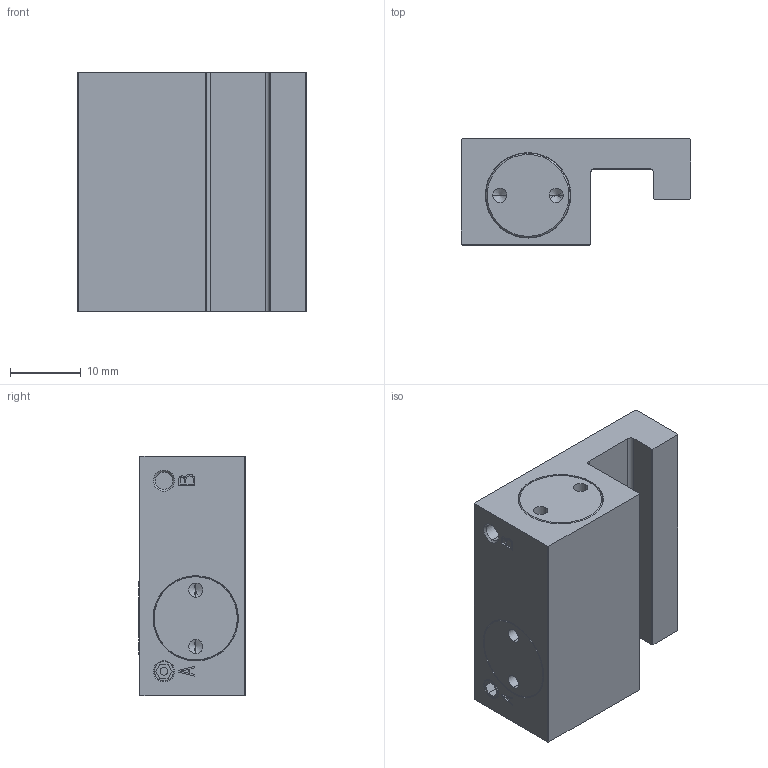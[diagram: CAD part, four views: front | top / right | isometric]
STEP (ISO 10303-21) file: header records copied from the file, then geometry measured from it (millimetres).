
FILE_DESCRIPTION( ( '' ), '1' );
FILE_NAME( 'E:/04 嬴檜蠱滌/0404 ZIMMER/040414 ZIMMER CAD download/MCP/MCP0901A---.stp', '2020-04-16T10:02:01', ( '' ), ( '' ), ' ', ' ', ' ' );
FILE_SCHEMA( ( 'automotive_design' ) );
Length unit declared in the file: millimetre
Products named in the file (1): 1
Bounding box: 32.5 x 15.05 x 34 mm (x, y, z)
Volume: 12079.4 mm3; surface area: 4628.3 mm2
Topology: 1 solids, 1 shells, 114 faces, 268 edges, 168 vertices
Faces by surface type: plane 60, cylinder 32, cone 22
Entity records: 6272 total; most frequent: DIRECTION 570, STYLED_ITEM 543, PRESENTATION_STYLE_ASSIGNMENT 543, CARTESIAN_POINT 543, COLOUR_RGB 543, ORIENTED_EDGE 520, EDGE_CURVE 260, CURVE_STYLE 260
